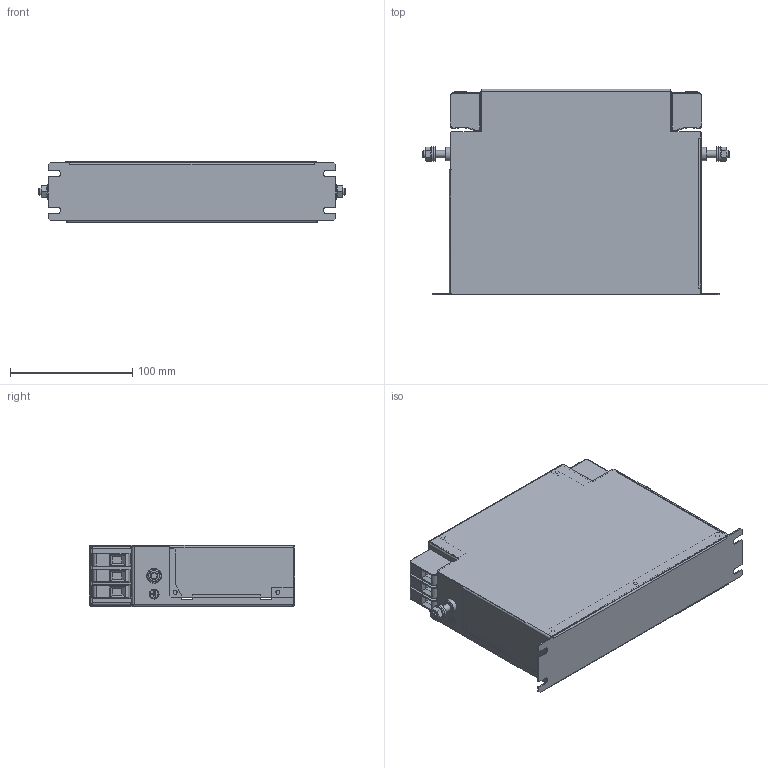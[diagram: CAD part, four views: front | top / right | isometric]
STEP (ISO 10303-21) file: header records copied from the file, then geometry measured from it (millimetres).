
FILE_DESCRIPTION(/* description */ ('raw material description'),/* implementation_level */ '2;1');
FILE_NAME(/* name */ 'C:\Users\Oliver.Volic\OneDrive - Schaffner EMV AG\Projekte\STEP\Wanda\FN3288-40-33.stp',/* time_stamp */ '2018-06-27T14:13:17+02:00',/* author */ ('Oliver.Volic'),/* organization */ ('Schaffner EMV AG'),/* preprocessor_version */ 'ST-DEVELOPER v16.5',/* originating_system */ 'Autodesk Inventor 2017',/* authorisation */ '');
FILE_SCHEMA (('AUTOMOTIVE_DESIGN { 1 0 10303 214 3 1 1 }'));
Length unit declared in the file: millimetre
Products named in the file (1): FN3288-40-33
Bounding box: 250.86 x 168.1 x 50 mm (x, y, z)
Volume: 158668.9 mm3; surface area: 231679.8 mm2
Topology: 1 solids, 10 shells, 1443 faces, 3543 edges, 2088 vertices
Faces by surface type: plane 861, cylinder 368, torus 81, sphere 72, bspline 31, cone 30
Full cylindrical faces by diameter (mm): 3.3 x13, 5.1 x6, 5.459 x2, 6 x4, 6.4 x2, 7 x2, 8 x2, 8.7 x4, 10 x6, 11.05 x2, 12 x2
Entity records: 43061 total; most frequent: CARTESIAN_POINT 8186, DIRECTION 6953, ORIENTED_EDGE 6798, EDGE_CURVE 3392, LINE 2413, VECTOR 2413, AXIS2_PLACEMENT_3D 2270, VERTEX_POINT 2069
